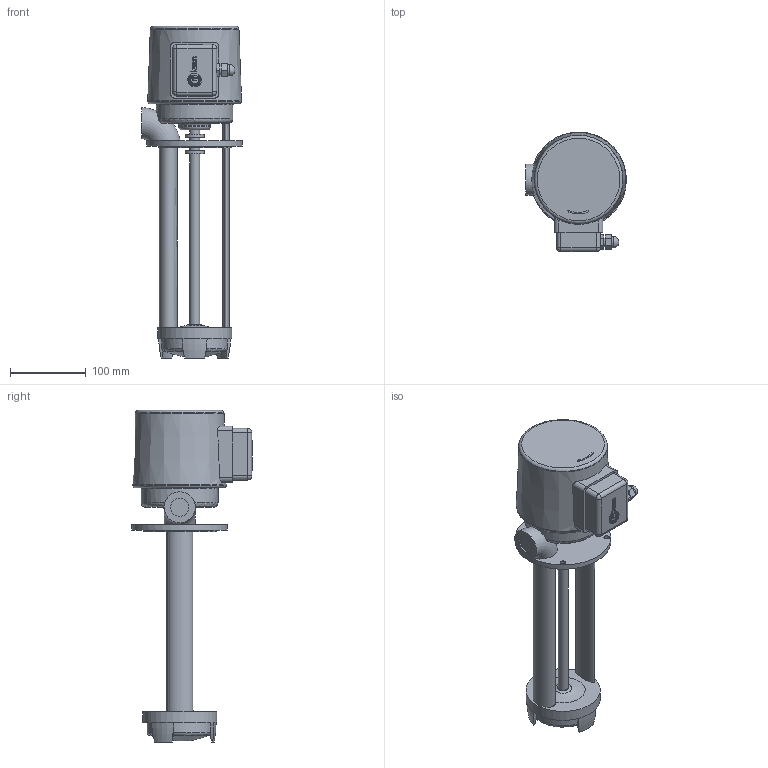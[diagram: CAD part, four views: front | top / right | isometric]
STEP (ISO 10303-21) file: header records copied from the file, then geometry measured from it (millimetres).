
FILE_DESCRIPTION(/* description */ ('Unknown'),/* implementation_level */ '2;1');
FILE_NAME(/* name */ 'CP27',/* time_stamp */ '2025-05-30T09:27:54+03:00',/* author */ ('Unknown'),/* organization */ ('Unknown'),/* preprocessor_version */ 'ST-DEVELOPER v16.7',/* originating_system */ 'DEX',/* authorisation */ $);
FILE_SCHEMA (('AUTOMOTIVE_DESIGN {1 0 10303 214 3 1 1}'));
Length unit declared in the file: millimetre
Products named in the file (1): CP27
Bounding box: 133.07 x 158.57 x 438.49 mm (x, y, z)
Volume: 2179632.5 mm3; surface area: 188320.1 mm2
Topology: 1 solids, 1 shells, 218 faces, 546 edges, 359 vertices
Faces by surface type: plane 73, bspline 69, cylinder 49, torus 21, cone 6
Full cylindrical faces by diameter (mm): 7 x4, 12 x1, 13.186 x4, 15 x1, 24 x1, 25.386 x2, 41.386 x1, 96.147 x1, 98 x1, 101.386 x1, 126.147 x1
Entity records: 8852 total; most frequent: CARTESIAN_POINT 4223, ORIENTED_EDGE 992, DIRECTION 752, EDGE_CURVE 496, VERTEX_POINT 347, EDGE_LOOP 301, FACE_BOUND 301, AXIS2_PLACEMENT_3D 278
